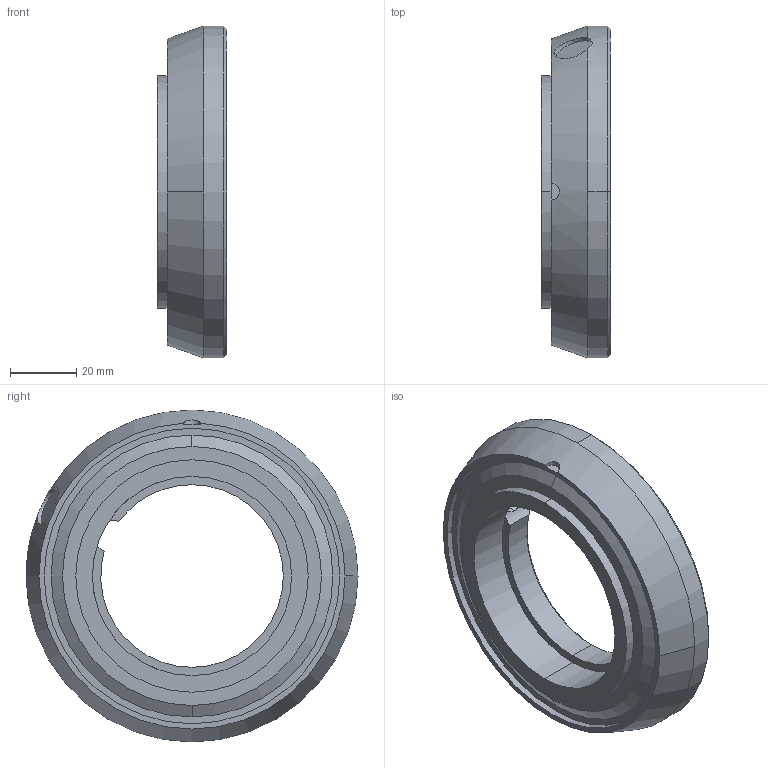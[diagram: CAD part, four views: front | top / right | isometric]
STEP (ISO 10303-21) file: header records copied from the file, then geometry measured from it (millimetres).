
FILE_DESCRIPTION (( 'STEP AP214' ), '1' );
FILE_NAME ('IRB1600ID_6-155_IRC5_rev0_LINK6.STEP', '2016-03-24T06:28:23', ( 'ABB' ), ( 'ABB' ), 'SwSTEP 2.0', 'SolidWorks 2014', '' );
FILE_SCHEMA (( 'AUTOMOTIVE_DESIGN' ));
Length unit declared in the file: millimetre
Products named in the file (1): IRB1600ID_6-155_IRC5_rev0_LINK6
Bounding box: 21 x 100 x 100 mm (x, y, z)
Volume: 84611.9 mm3; surface area: 22623.5 mm2
Topology: 1 solids, 2 shells, 76 faces, 199 edges, 121 vertices
Faces by surface type: cylinder 39, cone 27, plane 10
Entity records: 2473 total; most frequent: CARTESIAN_POINT 577, DIRECTION 425, ORIENTED_EDGE 370, EDGE_CURVE 185, AXIS2_PLACEMENT_3D 180, VERTEX_POINT 121, CIRCLE 103, EDGE_LOOP 88
